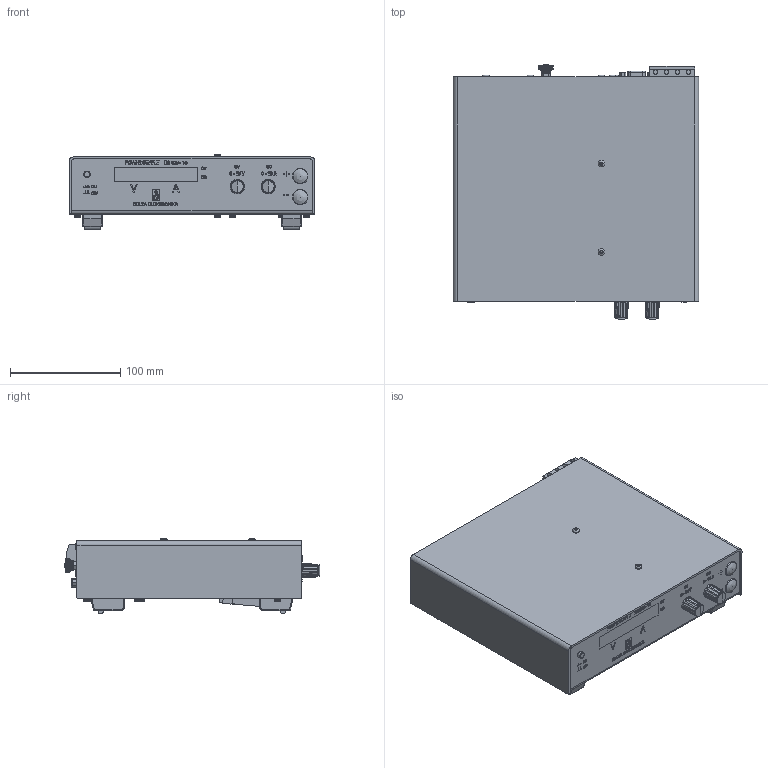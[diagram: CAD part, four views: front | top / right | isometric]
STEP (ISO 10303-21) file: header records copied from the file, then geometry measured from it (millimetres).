
FILE_DESCRIPTION(/* description */ (''),/* implementation_level */ '2;1');
FILE_NAME(/* name */ 'A:\Data\ES150\option\P279\step file\ES150-P119,P279.stp',/* time_stamp */ '2021-03-12T16:22:27+01:00',/* author */ ('Delta'),/* organization */ (''),/* preprocessor_version */ 'ST-DEVELOPER v17.2',/* originating_system */ 'Autodesk Inventor 2019',/* authorisation */ '');
FILE_SCHEMA (('AUTOMOTIVE_DESIGN { 1 0 10303 214 3 1 1 }'));
Products named in the file (1): assembly ES150-P119,P279_Shrinkwrap_1
Bounding box: 222 x 231.2 x 68.2 mm (x, y, z)
Volume: 2325779.7 mm3; surface area: 163843.6 mm2
Topology: 1 solids, 1 shells, 3422 faces, 8157 edges, 5213 vertices
Faces by surface type: plane 1884, cylinder 708, bspline 404, cone 261, torus 95, sphere 70
Full cylindrical faces by diameter (mm): 1.1 x9, 2.156 x2, 2.5 x1, 2.8 x2, 3.5 x344, 3.9 x4, 4 x2, 4.5 x4, 4.75 x4, 5 x1, 5.5 x1, 5.8 x1, 6 x32, 6.2 x2, 7.8 x2, 8 x4, 8.3 x2, 8.8 x2, 9 x2, 10 x2, 10.5 x1, 10.7 x2
Entity records: 108206 total; most frequent: CARTESIAN_POINT 28122, ORIENTED_EDGE 16262, DIRECTION 15233, EDGE_CURVE 8131, AXIS2_PLACEMENT_3D 5490, VERTEX_POINT 5215, LINE 4253, VECTOR 4253
